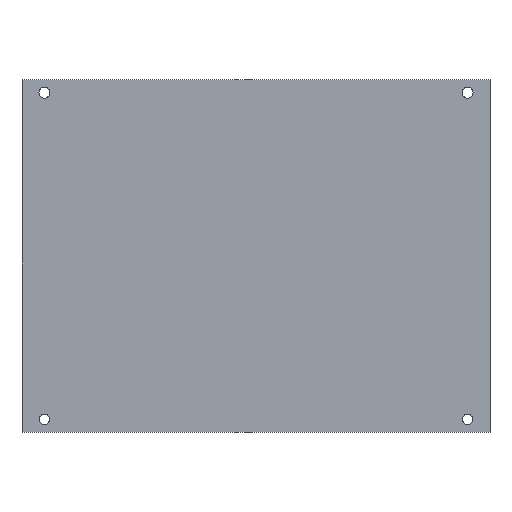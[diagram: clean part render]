
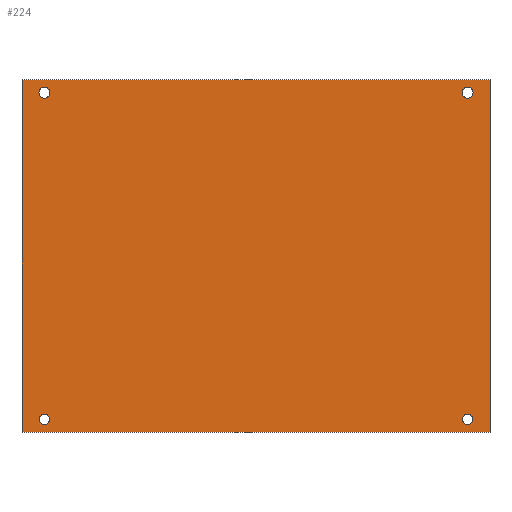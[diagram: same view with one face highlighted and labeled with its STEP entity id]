
A CAD part, top view. The second image highlights one B-rep face of the part: STEP entity #224.
In plain terms, the highlighted planar face has unit normal (0, 0, 1).
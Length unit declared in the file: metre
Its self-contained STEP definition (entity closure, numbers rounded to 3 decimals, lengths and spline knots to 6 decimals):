
#14=LINE('',#372,#26);
#18=LINE('',#380,#30);
#19=LINE('',#382,#31);
#20=LINE('',#384,#32);
#26=VECTOR('',#313,1.);
#30=VECTOR('',#319,1.);
#31=VECTOR('',#322,1.);
#32=VECTOR('',#323,1.);
#38=PLANE('',#263);
#70=ORIENTED_EDGE('',*,*,#96,.F.);
#71=ORIENTED_EDGE('',*,*,#99,.F.);
#72=ORIENTED_EDGE('',*,*,#102,.F.);
#73=ORIENTED_EDGE('',*,*,#105,.F.);
#74=ORIENTED_EDGE('',*,*,#113,.F.);
#75=ORIENTED_EDGE('',*,*,#108,.T.);
#76=ORIENTED_EDGE('',*,*,#112,.T.);
#77=ORIENTED_EDGE('',*,*,#114,.F.);
#96=EDGE_CURVE('',#120,#120,#140,.T.);
#99=EDGE_CURVE('',#123,#123,#143,.T.);
#102=EDGE_CURVE('',#126,#126,#146,.T.);
#105=EDGE_CURVE('',#129,#129,#149,.T.);
#108=EDGE_CURVE('',#133,#132,#14,.T.);
#112=EDGE_CURVE('',#132,#135,#18,.T.);
#113=EDGE_CURVE('',#133,#136,#19,.T.);
#114=EDGE_CURVE('',#136,#135,#20,.T.);
#120=VERTEX_POINT('',#341);
#123=VERTEX_POINT('',#349);
#126=VERTEX_POINT('',#357);
#129=VERTEX_POINT('',#365);
#132=VERTEX_POINT('',#371);
#133=VERTEX_POINT('',#373);
#135=VERTEX_POINT('',#379);
#136=VERTEX_POINT('',#383);
#140=CIRCLE('',#245,0.0017);
#143=CIRCLE('',#250,0.0016);
#146=CIRCLE('',#255,0.0016);
#149=CIRCLE('',#260,0.0017);
#168=EDGE_LOOP('',(#70));
#169=EDGE_LOOP('',(#71));
#170=EDGE_LOOP('',(#72));
#171=EDGE_LOOP('',(#73));
#172=EDGE_LOOP('',(#74,#75,#76,#77));
#198=FACE_BOUND('',#168,.T.);
#199=FACE_BOUND('',#169,.T.);
#200=FACE_BOUND('',#170,.T.);
#201=FACE_BOUND('',#171,.T.);
#202=FACE_BOUND('',#172,.T.);
#224=ADVANCED_FACE('',(#198,#199,#200,#201,#202),#38,.F.);
#245=AXIS2_PLACEMENT_3D('',#340,#277,#278);
#250=AXIS2_PLACEMENT_3D('',#348,#287,#288);
#255=AXIS2_PLACEMENT_3D('',#356,#297,#298);
#260=AXIS2_PLACEMENT_3D('',#364,#307,#308);
#263=AXIS2_PLACEMENT_3D('',#381,#320,#321);
#277=DIRECTION('',(0.,0.,1.));
#278=DIRECTION('',(0.,1.,0.));
#287=DIRECTION('',(0.,0.,1.));
#288=DIRECTION('',(0.,1.,0.));
#297=DIRECTION('',(0.,0.,1.));
#298=DIRECTION('',(0.,1.,0.));
#307=DIRECTION('',(0.,0.,1.));
#308=DIRECTION('',(0.,1.,0.));
#313=DIRECTION('',(-1.,0.,0.));
#319=DIRECTION('',(0.,-1.,0.));
#320=DIRECTION('',(0.,0.,-1.));
#321=DIRECTION('',(-1.,0.,0.));
#322=DIRECTION('',(0.,-1.,0.));
#323=DIRECTION('',(-1.,0.,0.));
#340=CARTESIAN_POINT('',(0.066,0.394727,-0.0705));
#341=CARTESIAN_POINT('',(0.066,0.396427,-0.0705));
#348=CARTESIAN_POINT('',(0.066,0.292831,-0.0705));
#349=CARTESIAN_POINT('',(0.066,0.294431,-0.0705));
#356=CARTESIAN_POINT('',(-0.066,0.292831,-0.0705));
#357=CARTESIAN_POINT('',(-0.066,0.294431,-0.0705));
#364=CARTESIAN_POINT('',(-0.066,0.394727,-0.0705));
#365=CARTESIAN_POINT('',(-0.066,0.396427,-0.0705));
#371=CARTESIAN_POINT('',(-0.073,0.398727,-0.0705));
#372=CARTESIAN_POINT('',(0.073,0.398727,-0.0705));
#373=CARTESIAN_POINT('',(0.073,0.398727,-0.0705));
#379=CARTESIAN_POINT('',(-0.073,0.288831,-0.0705));
#380=CARTESIAN_POINT('',(-0.073,0.398727,-0.0705));
#381=CARTESIAN_POINT('',(0.,0.343779,-0.0705));
#382=CARTESIAN_POINT('',(0.073,0.398727,-0.0705));
#383=CARTESIAN_POINT('',(0.073,0.288831,-0.0705));
#384=CARTESIAN_POINT('',(0.073,0.288831,-0.0705));
